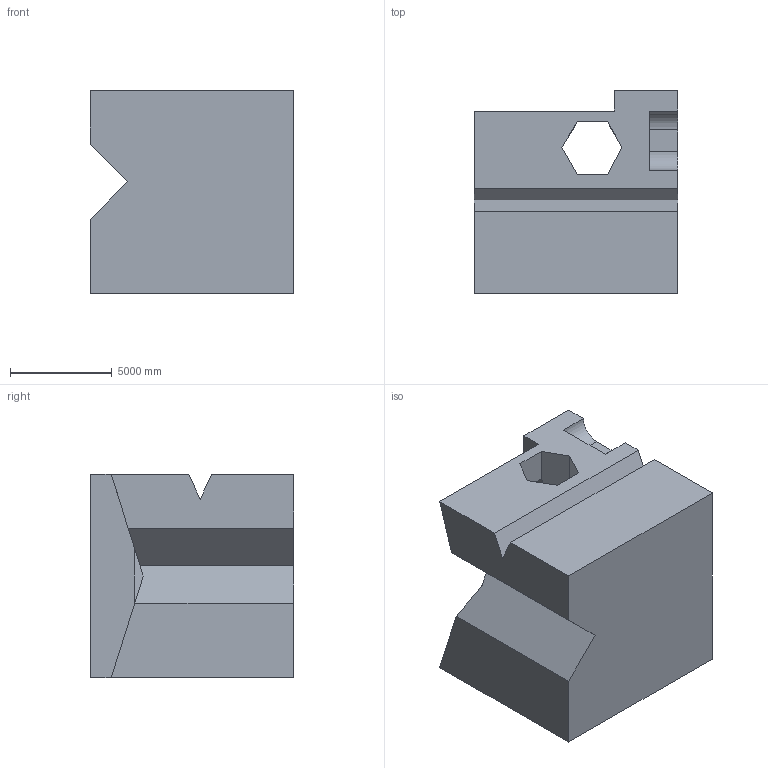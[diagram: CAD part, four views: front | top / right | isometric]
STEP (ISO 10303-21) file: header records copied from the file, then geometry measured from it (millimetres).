
FILE_DESCRIPTION (( 'STEP AP203' ), '1' );
FILE_NAME ('1506.STEP', '2022-08-18T14:54:23', ( 'user' ), ( '' ), 'SwSTEP 2.0', 'SolidWorks 2021', '' );
FILE_SCHEMA (( 'CONFIG_CONTROL_DESIGN' ));
Length unit declared in the file: centimetre
Products named in the file (1): 1506
Bounding box: 10000 x 10000 x 10000 mm (x, y, z)
Volume: 758416781558.4 mm3; surface area: 701156411.5 mm2
Topology: 1 solids, 1 shells, 29 faces, 84 edges, 56 vertices
Faces by surface type: plane 25, cylinder 4
Entity records: 1031 total; most frequent: CARTESIAN_POINT 170, ORIENTED_EDGE 168, DIRECTION 152, EDGE_CURVE 84, VECTOR 76, LINE 76, VERTEX_POINT 56, AXIS2_PLACEMENT_3D 38
